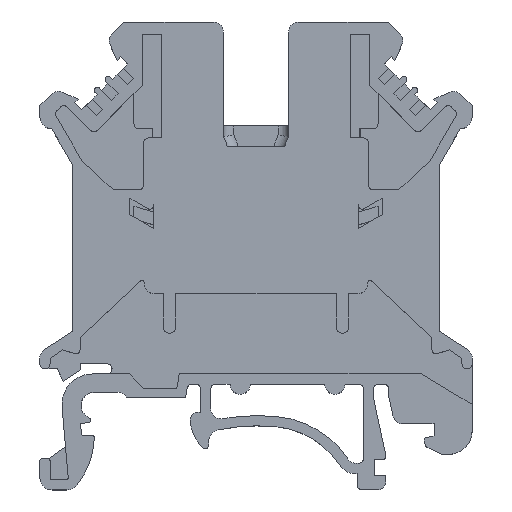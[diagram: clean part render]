
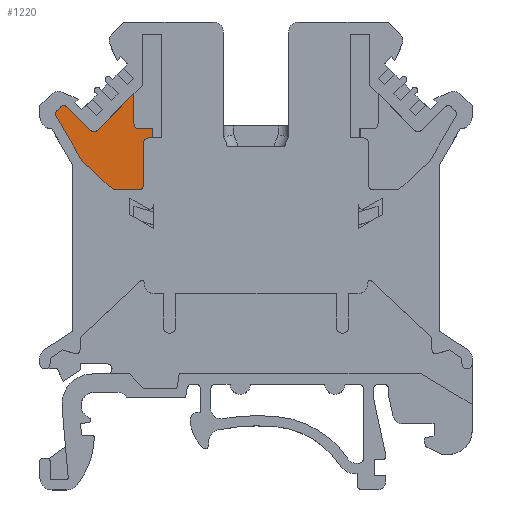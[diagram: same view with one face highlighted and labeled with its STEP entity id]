
A CAD part, top view. The second image highlights one B-rep face of the part: STEP entity #1220.
In plain terms, the highlighted planar face has unit normal (0, 0, 1).
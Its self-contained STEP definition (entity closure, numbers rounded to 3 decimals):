
#859=CIRCLE('',#8781,0.5);
#860=CIRCLE('',#8782,0.5);
#861=CIRCLE('',#8783,0.5);
#862=CIRCLE('',#8784,0.5);
#863=CIRCLE('',#8785,0.5);
#864=CIRCLE('',#8786,0.5);
#1220=ADVANCED_FACE('',(#1875),#1527,.T.);
#1527=PLANE('',#8787);
#1875=FACE_OUTER_BOUND('',#2278,.T.);
#2278=EDGE_LOOP('',(#4201,#4202,#4203,#4204,#4205,#4206,#4207,#4208,#4209,
#4210,#4211,#4212,#4213,#4214,#4215,#4216,#4217));
#4201=ORIENTED_EDGE('',*,*,#6365,.T.);
#4202=ORIENTED_EDGE('',*,*,#6366,.T.);
#4203=ORIENTED_EDGE('',*,*,#6367,.T.);
#4204=ORIENTED_EDGE('',*,*,#6368,.T.);
#4205=ORIENTED_EDGE('',*,*,#6369,.T.);
#4206=ORIENTED_EDGE('',*,*,#6370,.T.);
#4207=ORIENTED_EDGE('',*,*,#6342,.T.);
#4208=ORIENTED_EDGE('',*,*,#6347,.T.);
#4209=ORIENTED_EDGE('',*,*,#6364,.T.);
#4210=ORIENTED_EDGE('',*,*,#6371,.T.);
#4211=ORIENTED_EDGE('',*,*,#6372,.T.);
#4212=ORIENTED_EDGE('',*,*,#6373,.T.);
#4213=ORIENTED_EDGE('',*,*,#6374,.T.);
#4214=ORIENTED_EDGE('',*,*,#6375,.T.);
#4215=ORIENTED_EDGE('',*,*,#6376,.T.);
#4216=ORIENTED_EDGE('',*,*,#6377,.T.);
#4217=ORIENTED_EDGE('',*,*,#6378,.T.);
#5291=VERTEX_POINT('',#12941);
#5292=VERTEX_POINT('',#12942);
#5295=VERTEX_POINT('',#12950);
#5309=VERTEX_POINT('',#12984);
#5310=VERTEX_POINT('',#12988);
#5311=VERTEX_POINT('',#12989);
#5312=VERTEX_POINT('',#12991);
#5313=VERTEX_POINT('',#12993);
#5314=VERTEX_POINT('',#12995);
#5315=VERTEX_POINT('',#12997);
#5316=VERTEX_POINT('',#13000);
#5317=VERTEX_POINT('',#13002);
#5318=VERTEX_POINT('',#13004);
#5319=VERTEX_POINT('',#13006);
#5320=VERTEX_POINT('',#13008);
#5321=VERTEX_POINT('',#13010);
#5322=VERTEX_POINT('',#13012);
#6342=EDGE_CURVE('',#5291,#5292,#7297,.T.);
#6347=EDGE_CURVE('',#5292,#5295,#7302,.T.);
#6364=EDGE_CURVE('',#5295,#5309,#7317,.T.);
#6365=EDGE_CURVE('',#5310,#5311,#7318,.T.);
#6366=EDGE_CURVE('',#5311,#5312,#7319,.T.);
#6367=EDGE_CURVE('',#5312,#5313,#7320,.T.);
#6368=EDGE_CURVE('',#5313,#5314,#859,.T.);
#6369=EDGE_CURVE('',#5314,#5315,#7321,.T.);
#6370=EDGE_CURVE('',#5315,#5291,#860,.T.);
#6371=EDGE_CURVE('',#5309,#5316,#861,.T.);
#6372=EDGE_CURVE('',#5316,#5317,#7322,.T.);
#6373=EDGE_CURVE('',#5317,#5318,#7323,.T.);
#6374=EDGE_CURVE('',#5318,#5319,#862,.T.);
#6375=EDGE_CURVE('',#5319,#5320,#7324,.T.);
#6376=EDGE_CURVE('',#5320,#5321,#863,.T.);
#6377=EDGE_CURVE('',#5321,#5322,#7325,.T.);
#6378=EDGE_CURVE('',#5322,#5310,#864,.T.);
#7297=LINE('',#12940,#8166);
#7302=LINE('',#12951,#8171);
#7317=LINE('',#12985,#8186);
#7318=LINE('',#12987,#8187);
#7319=LINE('',#12990,#8188);
#7320=LINE('',#12992,#8189);
#7321=LINE('',#12996,#8190);
#7322=LINE('',#13001,#8191);
#7323=LINE('',#13003,#8192);
#7324=LINE('',#13007,#8193);
#7325=LINE('',#13011,#8194);
#8166=VECTOR('',#10641,1.);
#8171=VECTOR('',#10648,1.);
#8186=VECTOR('',#10673,1.);
#8187=VECTOR('',#10676,1.);
#8188=VECTOR('',#10677,1.);
#8189=VECTOR('',#10678,1.);
#8190=VECTOR('',#10681,1.);
#8191=VECTOR('',#10686,1.);
#8192=VECTOR('',#10687,1.);
#8193=VECTOR('',#10690,1.);
#8194=VECTOR('',#10693,1.);
#8781=AXIS2_PLACEMENT_3D('',#12994,#10679,#10680);
#8782=AXIS2_PLACEMENT_3D('',#12998,#10682,#10683);
#8783=AXIS2_PLACEMENT_3D('',#12999,#10684,#10685);
#8784=AXIS2_PLACEMENT_3D('',#13005,#10688,#10689);
#8785=AXIS2_PLACEMENT_3D('',#13009,#10691,#10692);
#8786=AXIS2_PLACEMENT_3D('',#13013,#10694,#10695);
#8787=AXIS2_PLACEMENT_3D('',#13014,#10696,#10697);
#10641=DIRECTION('',(1.,0.,0.));
#10648=DIRECTION('',(0.,1.,0.));
#10673=DIRECTION('',(-1.,0.,0.));
#10676=DIRECTION('',(0.5,-0.866,0.));
#10677=DIRECTION('',(0.729,-0.685,0.));
#10678=DIRECTION('',(1.,0.,0.));
#10679=DIRECTION('',(0.,0.,1.));
#10680=DIRECTION('',(0.,-1.,0.));
#10681=DIRECTION('',(0.,1.,0.));
#10682=DIRECTION('',(0.,0.,-1.));
#10683=DIRECTION('',(-1.,0.,0.));
#10684=DIRECTION('',(0.,0.,-1.));
#10685=DIRECTION('',(0.,-1.,0.));
#10686=DIRECTION('',(0.,1.,0.));
#10687=DIRECTION('',(-0.707,-0.707,0.));
#10688=DIRECTION('',(0.,0.,-1.));
#10689=DIRECTION('',(0.707,-0.707,0.));
#10690=DIRECTION('',(-0.707,0.707,0.));
#10691=DIRECTION('',(0.,0.,1.));
#10692=DIRECTION('',(0.707,0.707,0.));
#10693=DIRECTION('',(-0.707,-0.707,0.));
#10694=DIRECTION('',(0.,0.,1.));
#10695=DIRECTION('',(-0.707,0.707,0.));
#10696=DIRECTION('',(0.,0.,1.));
#10697=DIRECTION('',(1.,0.,0.));
#12940=CARTESIAN_POINT('',(15.6,37.,-4.2));
#12941=CARTESIAN_POINT('',(15.6,37.,-4.2));
#12942=CARTESIAN_POINT('',(15.95,37.,-4.2));
#12950=CARTESIAN_POINT('',(15.95,37.9,-4.2));
#12951=CARTESIAN_POINT('',(15.95,37.,-4.2));
#12984=CARTESIAN_POINT('',(14.65,37.9,-4.2));
#12985=CARTESIAN_POINT('',(15.95,37.9,-4.2));
#12987=CARTESIAN_POINT('',(6.519,39.124,-4.2));
#12988=CARTESIAN_POINT('',(6.519,39.124,-4.2));
#12989=CARTESIAN_POINT('',(9.016,34.8,-4.2));
#12990=CARTESIAN_POINT('',(9.016,34.8,-4.2));
#12991=CARTESIAN_POINT('',(12.1,31.9,-4.2));
#12992=CARTESIAN_POINT('',(12.1,31.9,-4.2));
#12993=CARTESIAN_POINT('',(14.6,31.9,-4.2));
#12994=CARTESIAN_POINT('',(14.6,32.4,-4.2));
#12995=CARTESIAN_POINT('',(15.1,32.4,-4.2));
#12996=CARTESIAN_POINT('',(15.1,32.4,-4.2));
#12997=CARTESIAN_POINT('',(15.1,36.5,-4.2));
#12998=CARTESIAN_POINT('',(15.6,36.5,-4.2));
#12999=CARTESIAN_POINT('',(14.65,38.4,-4.2));
#13000=CARTESIAN_POINT('',(14.15,38.4,-4.2));
#13001=CARTESIAN_POINT('',(14.15,38.4,-4.2));
#13002=CARTESIAN_POINT('',(14.15,41.339,-4.2));
#13003=CARTESIAN_POINT('',(14.15,41.339,-4.2));
#13004=CARTESIAN_POINT('',(10.581,37.77,-4.2));
#13005=CARTESIAN_POINT('',(10.227,38.123,-4.2));
#13006=CARTESIAN_POINT('',(9.874,37.77,-4.2));
#13007=CARTESIAN_POINT('',(9.874,37.77,-4.2));
#13008=CARTESIAN_POINT('',(7.611,40.032,-4.2));
#13009=CARTESIAN_POINT('',(7.257,39.679,-4.2));
#13010=CARTESIAN_POINT('',(6.904,40.032,-4.2));
#13011=CARTESIAN_POINT('',(6.904,40.032,-4.2));
#13012=CARTESIAN_POINT('',(6.599,39.728,-4.2));
#13013=CARTESIAN_POINT('',(6.953,39.374,-4.2));
#13014=CARTESIAN_POINT('',(17.55,48.4,-4.2));
